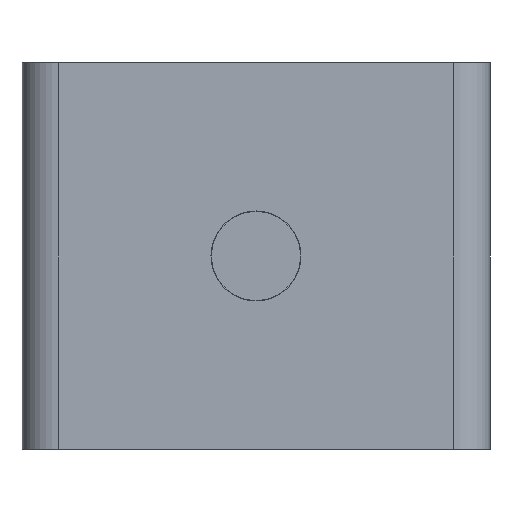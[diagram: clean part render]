
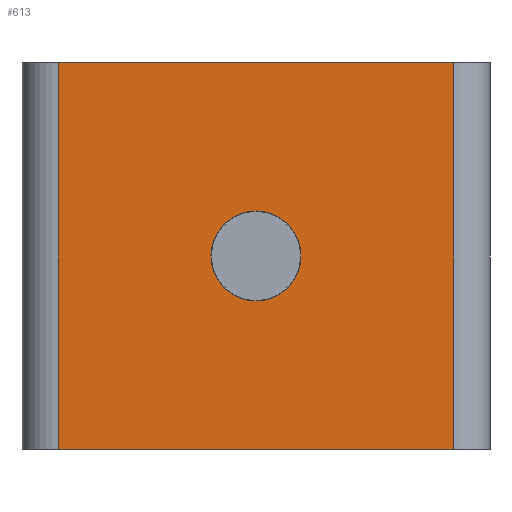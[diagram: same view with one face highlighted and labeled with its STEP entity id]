
A CAD part, front view. The second image highlights one B-rep face of the part: STEP entity #613.
In plain terms, the highlighted planar face has unit normal (0, -1, 0).
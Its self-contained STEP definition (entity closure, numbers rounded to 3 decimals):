
#36 = CARTESIAN_POINT ( 'NONE',  ( 11., -34., -21.5 ) ) ;
#89 = DIRECTION ( 'NONE',  ( 0., -1., 0. ) ) ;
#93 = CARTESIAN_POINT ( 'NONE',  ( 0., -34., -21.5 ) ) ;
#100 = EDGE_CURVE ( 'NONE', #1583, #219, #1651, .T. ) ;
#134 = CARTESIAN_POINT ( 'NONE',  ( 0., -34., -13.25 ) ) ;
#219 = VERTEX_POINT ( 'NONE', #1179 ) ;
#409 = ORIENTED_EDGE ( 'NONE', *, *, #4056, .F. ) ;
#496 = DIRECTION ( 'NONE',  ( 1., 0., 0. ) ) ;
#613 = ADVANCED_FACE ( 'NONE', ( #3963, #3860 ), #3593, .F. ) ;
#617 = EDGE_CURVE ( 'NONE', #2272, #1583, #2202, .T. ) ;
#708 = EDGE_LOOP ( 'NONE', ( #2849, #409 ) ) ;
#784 = CARTESIAN_POINT ( 'NONE',  ( -11., -34., -21.5 ) ) ;
#798 = DIRECTION ( 'NONE',  ( 0., 0., 1. ) ) ;
#801 = CARTESIAN_POINT ( 'NONE',  ( 0., -34., -10.75 ) ) ;
#810 = VECTOR ( 'NONE', #1366, 1000. ) ;
#940 = AXIS2_PLACEMENT_3D ( 'NONE', #784, #2657, #798 ) ;
#1011 = EDGE_CURVE ( 'NONE', #3756, #3564, #2670, .T. ) ;
#1124 = DIRECTION ( 'NONE',  ( 0., 0., 1. ) ) ;
#1179 = CARTESIAN_POINT ( 'NONE',  ( -11., -34., -21.5 ) ) ;
#1199 = CARTESIAN_POINT ( 'NONE',  ( 0., -34., -8.25 ) ) ;
#1211 = VERTEX_POINT ( 'NONE', #1541 ) ;
#1366 = DIRECTION ( 'NONE',  ( -1., 0., 0. ) ) ;
#1416 = VECTOR ( 'NONE', #496, 1000. ) ;
#1426 = CARTESIAN_POINT ( 'NONE',  ( 11., -34., -10.75 ) ) ;
#1468 = VECTOR ( 'NONE', #3604, 1000. ) ;
#1541 = CARTESIAN_POINT ( 'NONE',  ( -11., -34., 0. ) ) ;
#1583 = VERTEX_POINT ( 'NONE', #36 ) ;
#1651 = LINE ( 'NONE', #93, #810 ) ;
#1749 = ORIENTED_EDGE ( 'NONE', *, *, #617, .F. ) ;
#1783 = ORIENTED_EDGE ( 'NONE', *, *, #100, .F. ) ;
#1841 = CARTESIAN_POINT ( 'NONE',  ( 11., -34., 0. ) ) ;
#1844 = EDGE_LOOP ( 'NONE', ( #1783, #1749, #4002, #2721 ) ) ;
#1846 = CIRCLE ( 'NONE', #2977, 2.5 ) ;
#1972 = CARTESIAN_POINT ( 'NONE',  ( 0., -34., -10.75 ) ) ;
#2162 = EDGE_CURVE ( 'NONE', #1211, #219, #2512, .T. ) ;
#2202 = LINE ( 'NONE', #1426, #1468 ) ;
#2247 = LINE ( 'NONE', #2683, #1416 ) ;
#2272 = VERTEX_POINT ( 'NONE', #1841 ) ;
#2279 = DIRECTION ( 'NONE',  ( 0., 0., 1. ) ) ;
#2512 = LINE ( 'NONE', #3318, #3228 ) ;
#2657 = DIRECTION ( 'NONE',  ( 0., 1., 0. ) ) ;
#2670 = CIRCLE ( 'NONE', #3000, 2.5 ) ;
#2683 = CARTESIAN_POINT ( 'NONE',  ( 0., -34., 0. ) ) ;
#2721 = ORIENTED_EDGE ( 'NONE', *, *, #2162, .T. ) ;
#2849 = ORIENTED_EDGE ( 'NONE', *, *, #1011, .F. ) ;
#2964 = DIRECTION ( 'NONE',  ( 0., -1., 0. ) ) ;
#2977 = AXIS2_PLACEMENT_3D ( 'NONE', #1972, #89, #2279 ) ;
#3000 = AXIS2_PLACEMENT_3D ( 'NONE', #801, #2964, #1124 ) ;
#3058 = EDGE_CURVE ( 'NONE', #1211, #2272, #2247, .T. ) ;
#3228 = VECTOR ( 'NONE', #3641, 1000. ) ;
#3318 = CARTESIAN_POINT ( 'NONE',  ( -11., -34., -10.75 ) ) ;
#3564 = VERTEX_POINT ( 'NONE', #134 ) ;
#3593 = PLANE ( 'NONE',  #940 ) ;
#3604 = DIRECTION ( 'NONE',  ( 0., 0., -1. ) ) ;
#3641 = DIRECTION ( 'NONE',  ( 0., 0., -1. ) ) ;
#3756 = VERTEX_POINT ( 'NONE', #1199 ) ;
#3860 = FACE_OUTER_BOUND ( 'NONE', #1844, .T. ) ;
#3963 = FACE_BOUND ( 'NONE', #708, .T. ) ;
#4002 = ORIENTED_EDGE ( 'NONE', *, *, #3058, .F. ) ;
#4056 = EDGE_CURVE ( 'NONE', #3564, #3756, #1846, .T. ) ;
